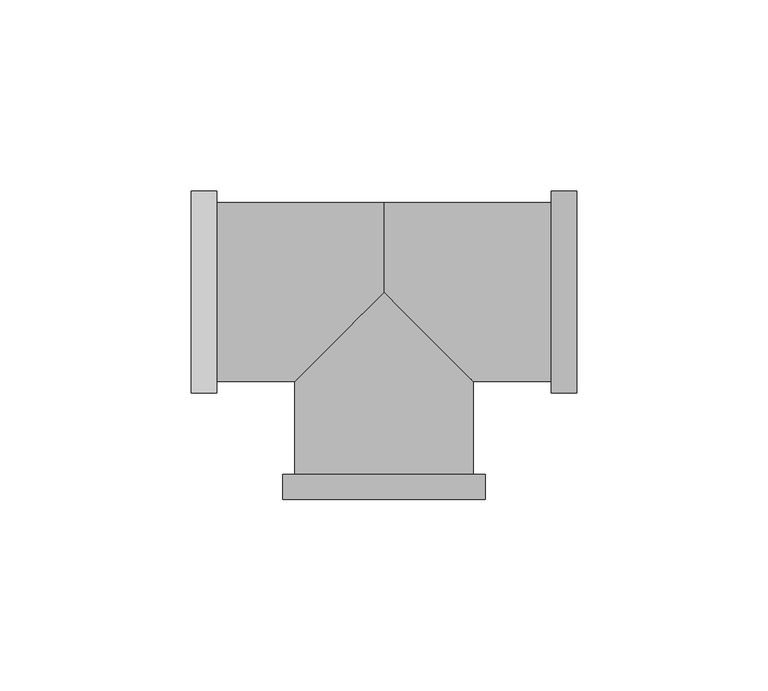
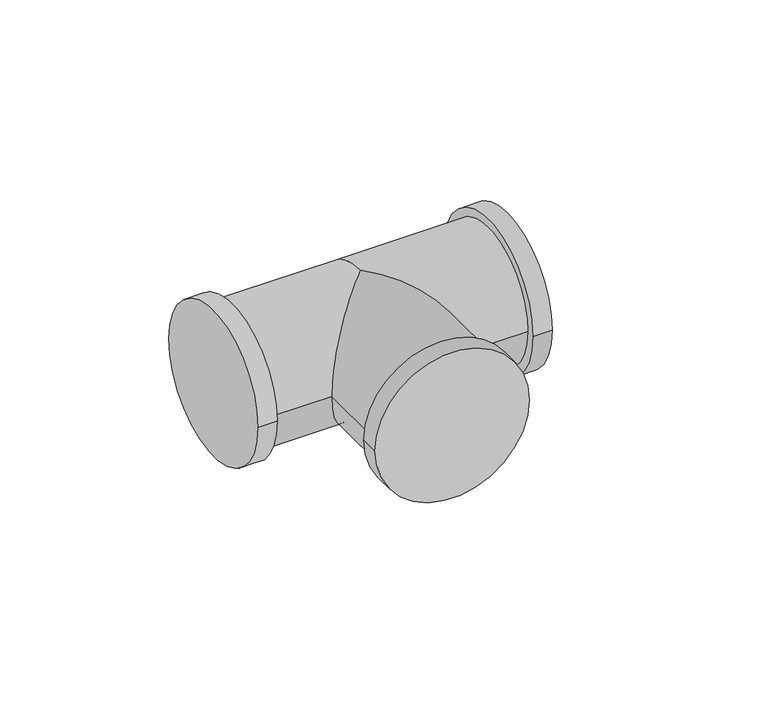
"""IFC4 building model written with IfcOpenShell, lengths in millimetres: pipe fitting geometry, Tê de redução - PVC - CW : Padrão."""

from ifc_helpers import new_model, si_unit, frame, origin, place, context, project, spatial, circle_curve, ellipse_curve, source, transform, mapped, element, save
from ifc_brep_helpers import plane_surface, cylinder_surface, advanced_brep


def pipe_fitting_b93b1fc9(model_context):
    return source(origin(), model_context, "Body", "AdvancedBrep", [
        advanced_brep(
        [(43.75, 23.375, 0.0), (0.0, 23.375, 0.0), (0.0, 0.0, 23.375), (23.375, -23.375, 0.0), (43.75, -23.375, 0.0), (0.0, 0.0, -23.375), (-43.75, 23.375, 0.0), (-43.75, -23.375, 0.0), (-23.375, -23.375, 0.0), (23.375, -47.65, 0.0), (-23.375, -47.65, 0.0), (-43.75, 26.4, 0.0), (-43.75, -26.4, 0.0), (-50.35, 26.4, 0.0), (-50.35, -26.4, 0.0), (43.75, -26.4, 0.0), (43.75, 26.4, 0.0), (50.35, -26.4, 0.0), (50.35, 26.4, 0.0), (-26.4, -47.65, 0.0), (26.4, -47.65, 0.0), (-26.4, -54.25, 0.0), (26.4, -54.25, 0.0)],
        [
            (0, 1),
            (1, 2, circle_curve(frame((0.0, 0.0, 0.0), z_axis=(1.0, 0.0, 0.0), x_axis=(0.0, 1.0, 0.0)), 23.375)),
            (2, 3, ellipse_curve(frame((0.0, 0.0, 0.0), z_axis=(0.7071067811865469, 0.707106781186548, 0.0), x_axis=(-0.7071067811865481, 0.7071067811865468, 0.0)), 33.057242, 23.375)),
            (3, 4),
            (4, 0, circle_curve(frame((43.75, 0.0, 0.0), z_axis=(-1.0, 0.0, 0.0), x_axis=(0.0, 1.0, 0.0)), 23.375)),
            (0, 4, circle_curve(frame((43.75, 0.0, 0.0), z_axis=(-1.0, 0.0, 0.0), x_axis=(0.0, 1.0, 0.0)), 23.375)),
            (3, 5, ellipse_curve(frame((0.0, 0.0, 0.0), z_axis=(0.7071067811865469, 0.707106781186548, 0.0), x_axis=(-0.7071067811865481, 0.7071067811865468, 0.0)), 33.057242, 23.375)),
            (5, 1, circle_curve(frame((0.0, 0.0, 0.0), z_axis=(1.0, 0.0, 0.0), x_axis=(0.0, 1.0, 0.0)), 23.375)),
            (1, 6),
            (6, 7, circle_curve(frame((-43.75, 0.0, 0.0), z_axis=(1.0, 0.0, 0.0), x_axis=(0.0, 1.0, 0.0)), 23.375)),
            (7, 8),
            (8, 2, ellipse_curve(frame((0.0, 0.0, 0.0), z_axis=(-0.707106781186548, 0.7071067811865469, 0.0), x_axis=(-0.7071067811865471, -0.7071067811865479, 0.0)), 33.057242, 23.375)),
            (5, 8, ellipse_curve(frame((0.0, 0.0, 0.0), z_axis=(-0.707106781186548, 0.7071067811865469, 0.0), x_axis=(-0.7071067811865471, -0.7071067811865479, 0.0)), 33.057242, 23.375)),
            (7, 6, circle_curve(frame((-43.75, 0.0, 0.0), z_axis=(1.0, 0.0, 0.0), x_axis=(0.0, 1.0, 0.0)), 23.375)),
            (9, 3),
            (8, 10),
            (10, 9, circle_curve(frame((0.0, -47.65, 0.0), z_axis=(0.0, 1.0, 0.0), x_axis=(1.0, 0.0, 0.0)), 23.375)),
            (9, 10, circle_curve(frame((0.0, -47.65, 0.0), z_axis=(0.0, 1.0, 0.0), x_axis=(1.0, 0.0, 0.0)), 23.375)),
            (11, 12, circle_curve(frame((-43.75, 0.0, 0.0), z_axis=(1.0, 0.0, 0.0), x_axis=(0.0, -1.0, 0.0)), 26.4)),
            (12, 11, circle_curve(frame((-43.75, 0.0, 0.0), z_axis=(1.0, 0.0, 0.0), x_axis=(0.0, -1.0, 0.0)), 26.4)),
            (13, 14, circle_curve(frame((-50.35, 0.0, 0.0), z_axis=(-1.0, 0.0, 0.0), x_axis=(0.0, -1.0, 0.0)), 26.4)),
            (14, 13, circle_curve(frame((-50.35, 0.0, 0.0), z_axis=(-1.0, 0.0, 0.0), x_axis=(0.0, -1.0, 0.0)), 26.4)),
            (11, 13),
            (14, 12),
            (15, 16, circle_curve(frame((43.75, 0.0, 0.0), z_axis=(-1.0, 0.0, 0.0), x_axis=(0.0, 1.0, 0.0)), 26.4)),
            (16, 15, circle_curve(frame((43.75, 0.0, 0.0), z_axis=(-1.0, 0.0, 0.0), x_axis=(0.0, 1.0, 0.0)), 26.4)),
            (17, 18, circle_curve(frame((50.35, 0.0, 0.0), z_axis=(1.0, 0.0, 0.0), x_axis=(0.0, 1.0, 0.0)), 26.4)),
            (18, 17, circle_curve(frame((50.35, 0.0, 0.0), z_axis=(1.0, 0.0, 0.0), x_axis=(0.0, 1.0, 0.0)), 26.4)),
            (15, 17),
            (18, 16),
            (19, 20, circle_curve(frame((0.0, -47.65, 0.0), z_axis=(0.0, 1.0, 0.0), x_axis=(1.0, 0.0, 0.0)), 26.4)),
            (20, 19, circle_curve(frame((0.0, -47.65, 0.0), z_axis=(0.0, 1.0, 0.0), x_axis=(1.0, 0.0, 0.0)), 26.4)),
            (21, 22, circle_curve(frame((0.0, -54.25, 0.0), z_axis=(0.0, -1.0, 0.0), x_axis=(1.0, 0.0, 0.0)), 26.4)),
            (22, 21, circle_curve(frame((0.0, -54.25, 0.0), z_axis=(0.0, -1.0, 0.0), x_axis=(1.0, 0.0, 0.0)), 26.4)),
            (19, 21),
            (22, 20),
        ],
        [
            cylinder_surface(frame((0.0, 0.0, 0.0), z_axis=(-1.0, 0.0, 0.0), x_axis=(0.0, 1.0, 0.0)), 23.375),
            cylinder_surface(frame((-43.75, 0.0, 0.0), z_axis=(-1.0, 0.0, 0.0), x_axis=(0.0, 1.0, 0.0)), 23.375),
            cylinder_surface(frame((0.0, 0.0, 0.0), z_axis=(0.0, 1.0, 0.0), x_axis=(1.0, 0.0, 0.0)), 23.375),
            plane_surface(frame((-43.75, 0.0, 0.0), z_axis=(1.0, 0.0, 0.0), x_axis=(0.0, 0.0, 1.0))),
            plane_surface(frame((-50.35, 0.0, 0.0), z_axis=(-1.0, 0.0, 0.0), x_axis=(0.0, 0.0, 1.0))),
            cylinder_surface(frame((-43.75, 0.0, 0.0), z_axis=(1.0, 0.0, 0.0), x_axis=(0.0, -1.0, 0.0)), 26.4),
            plane_surface(frame((43.75, 0.0, 0.0), z_axis=(-1.0, 0.0, 0.0), x_axis=(0.0, 0.0, 1.0))),
            plane_surface(frame((50.35, 0.0, 0.0), z_axis=(1.0, 0.0, 0.0), x_axis=(0.0, 0.0, 1.0))),
            cylinder_surface(frame((43.75, 0.0, 0.0), z_axis=(-1.0, 0.0, 0.0), x_axis=(0.0, 1.0, 0.0)), 26.4),
            plane_surface(frame((0.0, -47.65, 0.0), z_axis=(0.0, 1.0, 0.0), x_axis=(0.0, 0.0, 1.0))),
            plane_surface(frame((0.0, -54.25, 0.0), z_axis=(0.0, -1.0, 0.0), x_axis=(0.0, 0.0, 1.0))),
            cylinder_surface(frame((0.0, -47.65, 0.0), z_axis=(0.0, 1.0, 0.0), x_axis=(1.0, 0.0, 0.0)), 26.4),
        ],
        [
            (0, [[1, 2, 3, 4, 5]]),
            (0, [[-1, 6, -4, 7, 8]]),
            (1, [[9, 10, 11, 12, -2]]),
            (1, [[-9, -8, 13, -11, 14]]),
            (2, [[15, -3, -12, 16, 17]]),
            (2, [[-15, 18, -16, -13, -7]]),
            (3, [[19, 20], [-10, -14]]),
            (4, [[21, 22]]),
            (5, [[-19, 23, -22, 24]]),
            (5, [[-20, -24, -21, -23]]),
            (6, [[25, 26], [-5, -6]]),
            (7, [[27, 28]]),
            (8, [[-25, 29, -28, 30]]),
            (8, [[-26, -30, -27, -29]]),
            (9, [[31, 32], [-17, -18]]),
            (10, [[33, 34]]),
            (11, [[-31, 35, -34, 36]]),
            (11, [[-32, -36, -33, -35]]),
        ],
    ),
    ])


if __name__ == "__main__":
    model = new_model("IFC4")
    model_context = context("Model", 3, world=origin())
    ifc_project = project(units=[si_unit("LENGTHUNIT", "METRE", prefix="MILLI")], contexts=[model_context])
    site = spatial("IfcSite", under=ifc_project)
    building = spatial("IfcBuilding", under=site)
    placement = place(None, origin())
    pipe_fitting_shape = pipe_fitting_b93b1fc9(model_context)
    element("IfcPipeFitting", 1, ObjectType="Tê de redução - PVC - CW : Padrão", at=placement, inside=building, context=model_context, shape_type="MappedRepresentation", body=[
        mapped(pipe_fitting_shape, transform((0.0, 0.0, 0.0), x_axis=(1.0, 0.0, 0.0), y_axis=(0.0, 1.0, 0.0), z_axis=(0.0, 0.0, 1.0))),
    ])
    save(model, "model.ifc")
